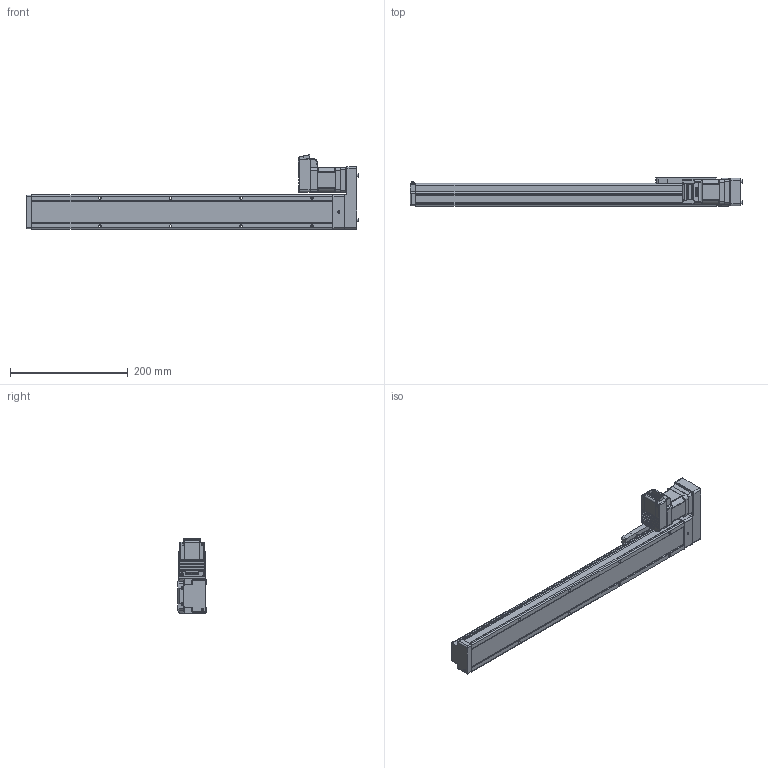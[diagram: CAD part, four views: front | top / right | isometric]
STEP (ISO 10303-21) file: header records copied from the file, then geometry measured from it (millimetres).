
FILE_DESCRIPTION (( 'STEP AP214' ), '1' );
FILE_NAME ('LEFS3(+)-25LNM1□-400-17L.STEP', '2023-05-31T05:04:34', ( '' ), ( '' ), 'SwSTEP 2.0', 'SolidWorks 2019', '' );
FILE_SCHEMA (( 'AUTOMOTIVE_DESIGN' ));
Length unit declared in the file: millimetre
Products named in the file (5): LEFS3(+)-25NM1_TABLE; LEFS3(+)-25LNM1□-400-17L; LEFS3(+)-25R(L)NM1仩_BODY_400; CM3(+)-17L50A; LEFS3(+)-25R(L)NM1仩_MOTOR Flange
Assembly tree (4 placements, depth 2):
  LEFS3(+)-25LNM1□-400-17L
    LEFS3(+)-25R(L)NM1仩_BODY_400
    LEFS3(+)-25NM1_TABLE
    LEFS3(+)-25R(L)NM1仩_MOTOR Flange
    CM3(+)-17L50A
Bounding box: 562.9 x 48 x 125.85 mm (x, y, z)
Volume: 1301160.8 mm3; surface area: 172691.1 mm2
Topology: 5 solids, 5 shells, 1019 faces, 2620 edges, 1652 vertices
Faces by surface type: plane 529, cylinder 318, cone 83, torus 39, bspline 29, sphere 21
Entity records: 41661 total; most frequent: CARTESIAN_POINT 7482, ORIENTED_EDGE 5178, DIRECTION 5000, EDGE_CURVE 2589, AXIS2_PLACEMENT_3D 1682, VERTEX_POINT 1652, VECTOR 1636, LINE 1636
